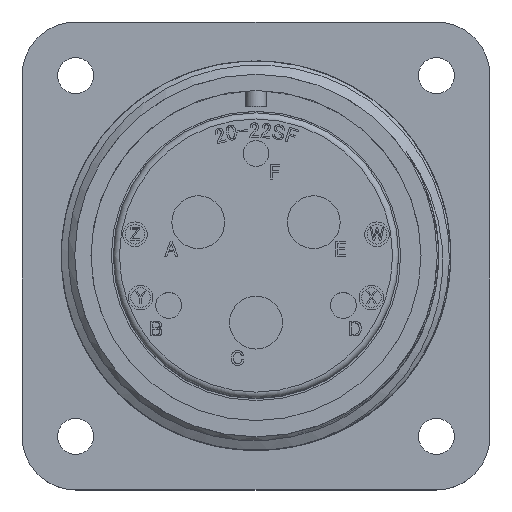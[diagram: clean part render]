
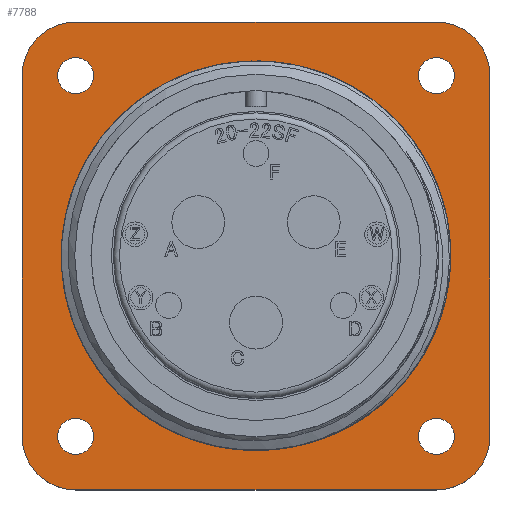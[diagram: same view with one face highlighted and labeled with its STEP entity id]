
A CAD part, top view. The second image highlights one B-rep face of the part: STEP entity #7788.
In plain terms, the highlighted planar face has unit normal (0, 0, 1).
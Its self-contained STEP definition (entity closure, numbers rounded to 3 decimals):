
#527 = CARTESIAN_POINT ( 'NONE',  ( -14.68, -14.68, -19.24 ) ) ;
#833 = EDGE_LOOP ( 'NONE', ( #59614 ) ) ;
#987 = EDGE_CURVE ( 'NONE', #47901, #20933, #42712, .T. ) ;
#1194 = DIRECTION ( 'NONE',  ( 1., 0., 0. ) ) ;
#1196 = VERTEX_POINT ( 'NONE', #55001 ) ;
#1207 = CARTESIAN_POINT ( 'NONE',  ( 0., 0., -19.24 ) ) ;
#1285 = AXIS2_PLACEMENT_3D ( 'NONE', #6080, #38293, #42954 ) ;
#2240 = CARTESIAN_POINT ( 'NONE',  ( 14.68, 14.68, -19.24 ) ) ;
#2787 = DIRECTION ( 'NONE',  ( -1., 0., 0. ) ) ;
#3054 = CARTESIAN_POINT ( 'NONE',  ( -14.68, -19.05, -19.24 ) ) ;
#3379 = EDGE_CURVE ( 'NONE', #14777, #14777, #41824, .T. ) ;
#4199 = CARTESIAN_POINT ( 'NONE',  ( -14.685, 14.685, -19.24 ) ) ;
#6080 = CARTESIAN_POINT ( 'NONE',  ( -14.68, 14.68, -19.24 ) ) ;
#7545 = LINE ( 'NONE', #11825, #56611 ) ;
#7788 = ADVANCED_FACE ( 'NONE', ( #8383, #37935, #28579, #9081, #30023, #13447 ), #50943, .T. ) ;
#7827 = DIRECTION ( 'NONE',  ( 0., 0., 1. ) ) ;
#8383 = FACE_BOUND ( 'NONE', #12845, .T. ) ;
#9081 = FACE_BOUND ( 'NONE', #26338, .T. ) ;
#9220 = AXIS2_PLACEMENT_3D ( 'NONE', #57242, #7827, #2787 ) ;
#10197 = VERTEX_POINT ( 'NONE', #37696 ) ;
#10767 = CARTESIAN_POINT ( 'NONE',  ( -14.68, 19.05, -19.24 ) ) ;
#11078 = CARTESIAN_POINT ( 'NONE',  ( -13.22, 14.685, -19.24 ) ) ;
#11326 = CARTESIAN_POINT ( 'NONE',  ( 14.68, -14.68, -19.24 ) ) ;
#11579 = VECTOR ( 'NONE', #54288, 1000. ) ;
#11769 = CIRCLE ( 'NONE', #42083, 4.37 ) ;
#11825 = CARTESIAN_POINT ( 'NONE',  ( 19.05, 14.68, -19.24 ) ) ;
#11878 = EDGE_CURVE ( 'NONE', #50791, #50791, #17497, .T. ) ;
#12054 = AXIS2_PLACEMENT_3D ( 'NONE', #47715, #49100, #48911 ) ;
#12327 = ORIENTED_EDGE ( 'NONE', *, *, #14615, .F. ) ;
#12845 = EDGE_LOOP ( 'NONE', ( #12327 ) ) ;
#13214 = AXIS2_PLACEMENT_3D ( 'NONE', #527, #27921, #37154 ) ;
#13447 = FACE_BOUND ( 'NONE', #59423, .T. ) ;
#13944 = EDGE_CURVE ( 'NONE', #24634, #10197, #23848, .T. ) ;
#14046 = ORIENTED_EDGE ( 'NONE', *, *, #59031, .F. ) ;
#14528 = CARTESIAN_POINT ( 'NONE',  ( -19.05, -14.68, -19.24 ) ) ;
#14615 = EDGE_CURVE ( 'NONE', #38543, #38543, #40292, .T. ) ;
#14777 = VERTEX_POINT ( 'NONE', #41947 ) ;
#14849 = CARTESIAN_POINT ( 'NONE',  ( 14.68, -19.05, -19.24 ) ) ;
#16393 = DIRECTION ( 'NONE',  ( 1., 0., 0. ) ) ;
#17497 = CIRCLE ( 'NONE', #42263, 1.465 ) ;
#18224 = CARTESIAN_POINT ( 'NONE',  ( -19.05, 14.68, -19.24 ) ) ;
#19237 = ORIENTED_EDGE ( 'NONE', *, *, #37264, .F. ) ;
#19442 = DIRECTION ( 'NONE',  ( 1., 0., 0. ) ) ;
#20069 = VECTOR ( 'NONE', #19442, 1000. ) ;
#20236 = EDGE_CURVE ( 'NONE', #33499, #1196, #11769, .T. ) ;
#20596 = CARTESIAN_POINT ( 'NONE',  ( -16.15, -14.685, -19.24 ) ) ;
#20933 = VERTEX_POINT ( 'NONE', #14849 ) ;
#21366 = AXIS2_PLACEMENT_3D ( 'NONE', #1207, #46922, #33009 ) ;
#21675 = ORIENTED_EDGE ( 'NONE', *, *, #26679, .F. ) ;
#21926 = VERTEX_POINT ( 'NONE', #52955 ) ;
#22231 = AXIS2_PLACEMENT_3D ( 'NONE', #38413, #38226, #1194 ) ;
#22937 = LINE ( 'NONE', #47197, #20069 ) ;
#23171 = DIRECTION ( 'NONE',  ( 1., 0., 0. ) ) ;
#23464 = AXIS2_PLACEMENT_3D ( 'NONE', #11326, #47995, #16393 ) ;
#23848 = LINE ( 'NONE', #18224, #11579 ) ;
#23904 = VECTOR ( 'NONE', #33867, 1000. ) ;
#24433 = EDGE_LOOP ( 'NONE', ( #52144 ) ) ;
#24634 = VERTEX_POINT ( 'NONE', #14528 ) ;
#25189 = CARTESIAN_POINT ( 'NONE',  ( -14.685, -14.685, -19.24 ) ) ;
#25219 = DIRECTION ( 'NONE',  ( 1., 0., 0. ) ) ;
#25665 = ORIENTED_EDGE ( 'NONE', *, *, #40244, .F. ) ;
#25716 = EDGE_CURVE ( 'NONE', #50733, #50733, #56831, .T. ) ;
#26338 = EDGE_LOOP ( 'NONE', ( #58466 ) ) ;
#26679 = EDGE_CURVE ( 'NONE', #34460, #33499, #22937, .T. ) ;
#27817 = ORIENTED_EDGE ( 'NONE', *, *, #25716, .F. ) ;
#27921 = DIRECTION ( 'NONE',  ( 0., 0., -1. ) ) ;
#28579 = FACE_BOUND ( 'NONE', #24433, .T. ) ;
#28595 = CIRCLE ( 'NONE', #13214, 4.37 ) ;
#29415 = CARTESIAN_POINT ( 'NONE',  ( 15.855, 0., -19.24 ) ) ;
#30023 = FACE_OUTER_BOUND ( 'NONE', #57843, .T. ) ;
#32257 = AXIS2_PLACEMENT_3D ( 'NONE', #25189, #57450, #53169 ) ;
#33009 = DIRECTION ( 'NONE',  ( 1., 0., 0. ) ) ;
#33499 = VERTEX_POINT ( 'NONE', #37535 ) ;
#33867 = DIRECTION ( 'NONE',  ( -1., 0., 0. ) ) ;
#34460 = VERTEX_POINT ( 'NONE', #10767 ) ;
#35556 = ORIENTED_EDGE ( 'NONE', *, *, #20236, .F. ) ;
#36811 = DIRECTION ( 'NONE',  ( 0., 0., 1. ) ) ;
#37154 = DIRECTION ( 'NONE',  ( 1., 0., 0. ) ) ;
#37264 = EDGE_CURVE ( 'NONE', #20933, #49380, #52704, .T. ) ;
#37535 = CARTESIAN_POINT ( 'NONE',  ( 14.68, 19.05, -19.24 ) ) ;
#37696 = CARTESIAN_POINT ( 'NONE',  ( -19.05, 14.68, -19.24 ) ) ;
#37935 = FACE_BOUND ( 'NONE', #833, .T. ) ;
#38226 = DIRECTION ( 'NONE',  ( 0., 0., 1. ) ) ;
#38293 = DIRECTION ( 'NONE',  ( 0., 0., -1. ) ) ;
#38413 = CARTESIAN_POINT ( 'NONE',  ( 14.685, -14.685, -19.24 ) ) ;
#38497 = CARTESIAN_POINT ( 'NONE',  ( -14.68, -19.05, -19.24 ) ) ;
#38543 = VERTEX_POINT ( 'NONE', #20596 ) ;
#38615 = DIRECTION ( 'NONE',  ( 0., -1., 0. ) ) ;
#40244 = EDGE_CURVE ( 'NONE', #49380, #24634, #28595, .T. ) ;
#40292 = CIRCLE ( 'NONE', #32257, 1.465 ) ;
#40574 = CIRCLE ( 'NONE', #22231, 1.465 ) ;
#41824 = CIRCLE ( 'NONE', #9220, 1.465 ) ;
#41947 = CARTESIAN_POINT ( 'NONE',  ( 13.22, 14.685, -19.24 ) ) ;
#42083 = AXIS2_PLACEMENT_3D ( 'NONE', #2240, #57068, #25219 ) ;
#42263 = AXIS2_PLACEMENT_3D ( 'NONE', #4199, #36811, #23171 ) ;
#42622 = CIRCLE ( 'NONE', #1285, 4.37 ) ;
#42712 = CIRCLE ( 'NONE', #23464, 4.37 ) ;
#42954 = DIRECTION ( 'NONE',  ( 1., 0., 0. ) ) ;
#45789 = EDGE_CURVE ( 'NONE', #21926, #21926, #40574, .T. ) ;
#46922 = DIRECTION ( 'NONE',  ( 0., 0., 1. ) ) ;
#47197 = CARTESIAN_POINT ( 'NONE',  ( -14.68, 19.05, -19.24 ) ) ;
#47675 = EDGE_CURVE ( 'NONE', #10197, #34460, #42622, .T. ) ;
#47715 = CARTESIAN_POINT ( 'NONE',  ( 0., 0., -19.24 ) ) ;
#47901 = VERTEX_POINT ( 'NONE', #54781 ) ;
#47995 = DIRECTION ( 'NONE',  ( 0., 0., -1. ) ) ;
#48911 = DIRECTION ( 'NONE',  ( 1., 0., 0. ) ) ;
#49100 = DIRECTION ( 'NONE',  ( 0., 0., 1. ) ) ;
#49380 = VERTEX_POINT ( 'NONE', #3054 ) ;
#50690 = ORIENTED_EDGE ( 'NONE', *, *, #13944, .F. ) ;
#50733 = VERTEX_POINT ( 'NONE', #29415 ) ;
#50791 = VERTEX_POINT ( 'NONE', #11078 ) ;
#50943 = PLANE ( 'NONE',  #21366 ) ;
#52144 = ORIENTED_EDGE ( 'NONE', *, *, #3379, .F. ) ;
#52704 = LINE ( 'NONE', #38497, #23904 ) ;
#52955 = CARTESIAN_POINT ( 'NONE',  ( 16.15, -14.685, -19.24 ) ) ;
#53169 = DIRECTION ( 'NONE',  ( -1., 0., 0. ) ) ;
#54288 = DIRECTION ( 'NONE',  ( 0., 1., 0. ) ) ;
#54781 = CARTESIAN_POINT ( 'NONE',  ( 19.05, -14.68, -19.24 ) ) ;
#55001 = CARTESIAN_POINT ( 'NONE',  ( 19.05, 14.68, -19.24 ) ) ;
#56100 = ORIENTED_EDGE ( 'NONE', *, *, #987, .F. ) ;
#56611 = VECTOR ( 'NONE', #38615, 1000. ) ;
#56831 = CIRCLE ( 'NONE', #12054, 15.855 ) ;
#57068 = DIRECTION ( 'NONE',  ( 0., 0., -1. ) ) ;
#57242 = CARTESIAN_POINT ( 'NONE',  ( 14.685, 14.685, -19.24 ) ) ;
#57450 = DIRECTION ( 'NONE',  ( 0., 0., 1. ) ) ;
#57843 = EDGE_LOOP ( 'NONE', ( #19237, #56100, #14046, #35556, #21675, #59407, #50690, #25665 ) ) ;
#58466 = ORIENTED_EDGE ( 'NONE', *, *, #11878, .F. ) ;
#59031 = EDGE_CURVE ( 'NONE', #1196, #47901, #7545, .T. ) ;
#59407 = ORIENTED_EDGE ( 'NONE', *, *, #47675, .F. ) ;
#59423 = EDGE_LOOP ( 'NONE', ( #27817 ) ) ;
#59614 = ORIENTED_EDGE ( 'NONE', *, *, #45789, .F. ) ;
